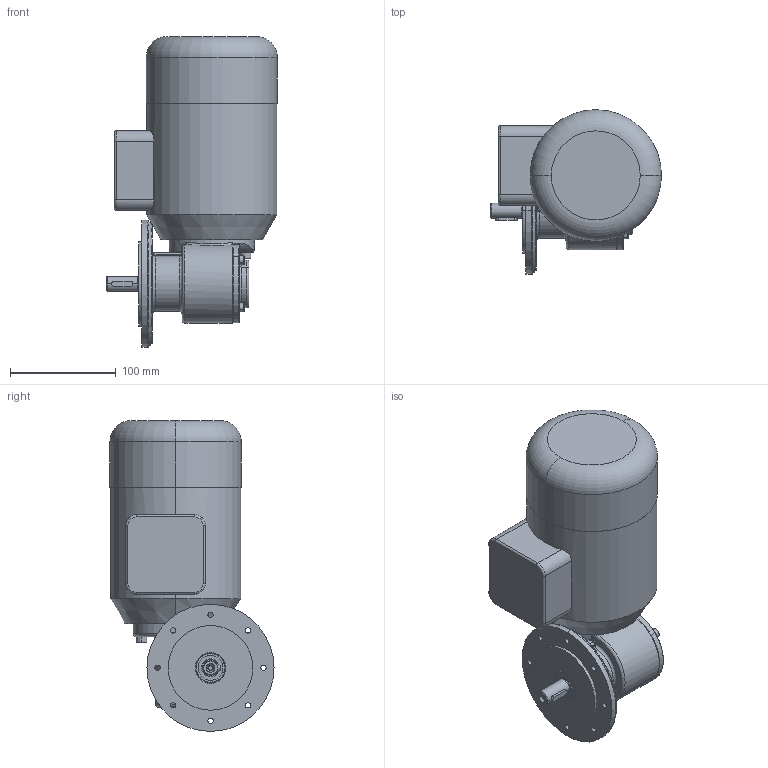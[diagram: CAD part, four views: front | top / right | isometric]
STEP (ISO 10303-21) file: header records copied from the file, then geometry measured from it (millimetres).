
FILE_DESCRIPTION (( 'STEP AP214' ), '1' );
FILE_NAME ('SN3FL_120W_180W_250W_D.STEP', '2021-03-16T11:08:43', ( '' ), ( '' ), 'SwSTEP 2.0', 'SolidWorks 2019', '' );
FILE_SCHEMA (( 'AUTOMOTIVE_DESIGN' ));
Length unit declared in the file: millimetre
Products named in the file (1): SN3FL_120W_180W_250W_D
Bounding box: 161.4 x 155 x 293.5 mm (x, y, z)
Surface area: 162045.7 mm2 (no closed solid volume)
Topology: 0 solids, 16 shells, 268 faces, 735 edges, 456 vertices
Faces by surface type: plane 93, cylinder 87, cone 44, torus 38, bspline 6
Entity records: 12050 total; most frequent: CARTESIAN_POINT 2233, DIRECTION 1551, ORIENTED_EDGE 1285, EDGE_CURVE 721, AXIS2_PLACEMENT_3D 612, VERTEX_POINT 456, CIRCLE 349, VECTOR 327
